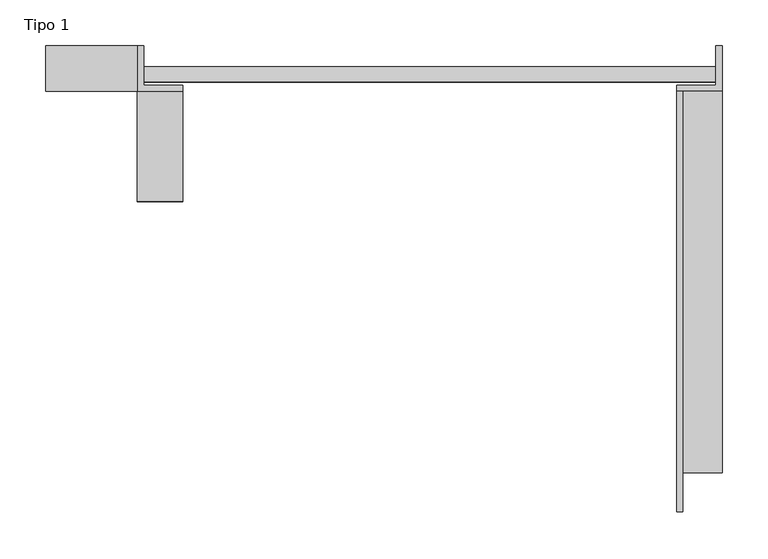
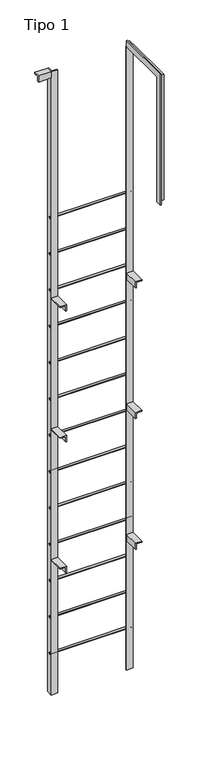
"""IFC4 building model written with IfcOpenShell, lengths in millimetres: proxy geometry, ARQ-ESC-EX-Ace-H3 : Tipo 1."""

import ifcopenshell
import ifcopenshell.guid

model = None  # the IFC model being written
_history = None  # IfcOwnerHistory: only IFC2X3 demands one
_inside = {}  # id of a spatial element -> (the spatial element, [elements in it])
_under = {}  # id of a project, library or spatial element -> (it, [spatial elements below it])
_declared = {}  # id of a project -> (the project, [libraries it declares])
_typed = {}  # id of a type object -> (the type object, [elements of that type])
_made_of = {}  # id of a material, layer set ... -> (it, [elements and type objects made of it])


def new_model(schema):
    """Start an empty IFC model of exactly this schema.

    Asked for "IFC4X3", IfcOpenShell would pick the latest addendum, in which some entities
    have other attributes; the version numbers below select the first issue.
    IFC2X3 requires an IfcOwnerHistory on every rooted entity: one is made here for all.
    """
    global model, _history
    if schema == "IFC4X3":
        model = ifcopenshell.file(schema_version=(4, 3, 0, 0))
    else:
        model = ifcopenshell.file(schema=schema)
    _inside.clear()
    _under.clear()
    _declared.clear()
    _typed.clear()
    _made_of.clear()
    _history = None
    if model.schema == "IFC2X3":
        org = make("IfcOrganization", Name="unknown")
        user = make(
            "IfcPersonAndOrganization",
            ThePerson=make("IfcPerson", FamilyName="unknown"),
            TheOrganization=org,
        )
        app = make(
            "IfcApplication",
            ApplicationDeveloper=org,
            Version="unknown",
            ApplicationFullName="unknown",
            ApplicationIdentifier="unknown",
        )
        _history = make(
            "IfcOwnerHistory",
            OwningUser=user,
            OwningApplication=app,
            ChangeAction="ADDED",
            CreationDate=0,
        )
    return model


def make(cls, **values):
    """One entity of the class cls with the attributes given. An attribute that is None is left unset."""
    return model.create_entity(
        cls, **{name: value for name, value in values.items() if value is not None}
    )


def rooted(cls, **values):
    """An entity with a GlobalId (a new one), such as an element, a storey or a relation."""
    return make(cls, GlobalId=ifcopenshell.guid.new(), OwnerHistory=_history, **values)


def si_unit(unit_type, name, prefix=None):
    """IfcSIUnit, for example si_unit("LENGTHUNIT", "METRE", prefix="MILLI")."""
    return make("IfcSIUnit", UnitType=unit_type, Prefix=prefix, Name=name)


def assignment(units):
    """IfcUnitAssignment: the units of a project."""
    return None if units is None else make("IfcUnitAssignment", Units=units)


def point(xyz):
    """IfcCartesianPoint."""
    return None if xyz is None else make("IfcCartesianPoint", Coordinates=xyz)


def direction(xyz):
    """IfcDirection."""
    return None if xyz is None else make("IfcDirection", DirectionRatios=xyz)


def frame(location, z_axis=None, x_axis=None):
    """IfcAxis2Placement3D, a coordinate frame: its origin and axes. An axis left out is left unset."""
    return make(
        "IfcAxis2Placement3D",
        Location=point(location),
        Axis=direction(z_axis),
        RefDirection=direction(x_axis),
    )


def frame_2d(location, x_axis=None):
    """IfcAxis2Placement2D, a coordinate frame in the plane: its origin and x axis."""
    return make(
        "IfcAxis2Placement2D", Location=point(location), RefDirection=direction(x_axis)
    )


def origin():
    """The frame at (0, 0, 0) with its axes left unset."""
    return frame((0.0, 0.0, 0.0))


def origin_with_axes():
    """The frame at (0, 0, 0) with the z axis (0, 0, 1) and the x axis (1, 0, 0) written out."""
    return frame((0.0, 0.0, 0.0), z_axis=(0.0, 0.0, 1.0), x_axis=(1.0, 0.0, 0.0))


def place(relative_to, where):
    """IfcLocalPlacement: puts the frame where relative to a parent placement (None: the world)."""
    return make(
        "IfcLocalPlacement", PlacementRelTo=relative_to, RelativePlacement=where
    )


def context(
    kind, dimensions, precision=None, world=None, true_north=None, identifier=None
):
    """IfcGeometricRepresentationContext, for example the 3D "Model" context."""
    return make(
        "IfcGeometricRepresentationContext",
        ContextIdentifier=identifier,
        ContextType=kind,
        CoordinateSpaceDimension=dimensions,
        Precision=precision,
        WorldCoordinateSystem=world,
        TrueNorth=true_north,
    )


def project(units=None, contexts=None):
    """IfcProject with its units and contexts."""
    return rooted(
        "IfcProject",
        Name="project",
        RepresentationContexts=contexts,
        UnitsInContext=assignment(units),
    )


def spatial(cls, under=None, at=None, **own):
    """A site, building, storey or space (cls), placed at a placement, below another one or the project."""
    s = rooted(cls, ObjectPlacement=at, **own)
    if under is not None:
        _under.setdefault(under.id(), (under, []))[1].append(s)
    return s


def polyline(points):
    """IfcPolyline through the points."""
    return make("IfcPolyline", Points=[point(p) for p in points])


def circle_curve(where, radius):
    """IfcCircle in the frame where."""
    return make("IfcCircle", Position=where, Radius=radius)


def trimmed(basis, trim1, trim2, sense, master):
    """IfcTrimmedCurve: the piece of a basis curve between two trims."""
    return make(
        "IfcTrimmedCurve",
        BasisCurve=basis,
        Trim1=trim1,
        Trim2=trim2,
        SenseAgreement=sense,
        MasterRepresentation=master,
    )


def segment(curve, same_sense, transition):
    """IfcCompositeCurveSegment."""
    return make(
        "IfcCompositeCurveSegment",
        Transition=transition,
        SameSense=same_sense,
        ParentCurve=curve,
    )


def composite_curve(segments, self_intersect=None):
    """IfcCompositeCurve: segments joined end to end."""
    return make("IfcCompositeCurve", Segments=segments, SelfIntersect=self_intersect)


def outline(outer, holes=None, kind="AREA"):
    """IfcArbitraryClosedProfileDef: a profile drawn as a closed curve; with holes, ...WithVoids."""
    if holes is None:
        return make("IfcArbitraryClosedProfileDef", ProfileType=kind, OuterCurve=outer)
    return make(
        "IfcArbitraryProfileDefWithVoids",
        ProfileType=kind,
        OuterCurve=outer,
        InnerCurves=holes,
    )


def extrude(swept, where, along, depth):
    """IfcExtrudedAreaSolid: the profile swept, set in the frame where, extruded along a direction by depth."""
    return make(
        "IfcExtrudedAreaSolid",
        SweptArea=swept,
        Position=where,
        ExtrudedDirection=direction(along),
        Depth=depth,
    )


def faces_of(points, faces, orient=None, outer=None):
    """IfcFace entities. A face is a list of loops; a loop is a list of indices into points, from 0.

    orient and outer hold one flag for each loop. By default every Orientation is true, the
    first loop of a face is its IfcFaceOuterBound and the others are IfcFaceBound.
    """
    made = []
    for i, loops in enumerate(faces):
        bounds = []
        for j, loop in enumerate(loops):
            is_outer = j == 0 if outer is None else outer[i][j]
            bounds.append(
                make(
                    "IfcFaceOuterBound" if is_outer else "IfcFaceBound",
                    Bound=make("IfcPolyLoop", Polygon=[points[k] for k in loop]),
                    Orientation=True if orient is None else orient[i][j],
                )
            )
        made.append(make("IfcFace", Bounds=bounds))
    return made


def faceted_brep(points, faces, orient=None, outer=None, voids=None):
    """IfcFacetedBrep: a solid bounded by flat faces; with voids (closed shells), ...WithVoids."""
    shared = [point(p) for p in points]
    hull = make("IfcClosedShell", CfsFaces=faces_of(shared, faces, orient, outer))
    if voids is None:
        return make("IfcFacetedBrep", Outer=hull)
    return make(
        "IfcFacetedBrepWithVoids",
        Outer=hull,
        Voids=[
            make(cls, CfsFaces=faces_of(shared, fs, o, b)) for cls, fs, o, b in voids
        ],
    )


def shape(context_of_items, identifier, shape_type, items):
    """IfcShapeRepresentation: the items that make up one representation, for example the "Body"."""
    return make(
        "IfcShapeRepresentation",
        ContextOfItems=context_of_items,
        RepresentationIdentifier=identifier,
        RepresentationType=shape_type,
        Items=items,
    )


def source(mapping_origin, context_of_items, identifier, shape_type, items):
    """IfcRepresentationMap: a shape defined once, which mapped items show again and again."""
    return make(
        "IfcRepresentationMap",
        MappingOrigin=mapping_origin,
        MappedRepresentation=shape(context_of_items, identifier, shape_type, items),
    )


def transform(
    local_origin,
    x_axis=None,
    y_axis=None,
    z_axis=None,
    scale=None,
    scale2=None,
    scale3=None,
    uniform=True,
):
    """IfcCartesianTransformationOperator3D, or its non-uniform kind. x_axis, y_axis, z_axis: its Axis1, 2, 3."""
    if uniform:
        return make(
            "IfcCartesianTransformationOperator3D",
            Axis1=direction(x_axis),
            Axis2=direction(y_axis),
            LocalOrigin=point(local_origin),
            Scale=scale,
            Axis3=direction(z_axis),
        )
    return make(
        "IfcCartesianTransformationOperator3DnonUniform",
        Axis1=direction(x_axis),
        Axis2=direction(y_axis),
        LocalOrigin=point(local_origin),
        Scale=scale,
        Axis3=direction(z_axis),
        Scale2=scale2,
        Scale3=scale3,
    )


def mapped(mapping_source, mapping_target):
    """IfcMappedItem: shows the shape of a source again, moved by a transform."""
    return make(
        "IfcMappedItem", MappingSource=mapping_source, MappingTarget=mapping_target
    )


def made_of(thing, what):
    """Note that an element or type object is made of a material, layer set ...; save() writes the relation."""
    if what is not None:
        _made_of.setdefault(what.id(), (what, []))[1].append(thing)
    return thing


def element(
    cls,
    number,
    at=None,
    inside=None,
    cuts=None,
    type_object=None,
    material=None,
    context=None,
    identifier="Body",
    shape_type=None,
    held_by="IfcProductDefinitionShape",
    body=None,
    shapes=None,
    **own,
):
    """One element of the class cls, such as IfcWall. Its Tag is "e" and its number.

    at: its placement. inside: the storey or other place that contains it. cuts: it is an
    opening in that element (IfcRelVoidsElement). A single representation is given by context,
    identifier, shape_type and body (its items); several are given by shapes. held_by: the class
    of the entity that holds the representations. save() writes the other relations.
    """
    e = rooted(cls, Tag="e%d" % number, ObjectPlacement=at, **own)
    if body is not None:
        shapes = [shape(context, identifier, shape_type, body)]
    if shapes is not None:
        e.Representation = make(held_by, Representations=shapes)
    if inside is not None:
        _inside.setdefault(inside.id(), (inside, []))[1].append(e)
    if cuts is not None:
        rooted(
            "IfcRelVoidsElement", RelatingBuildingElement=cuts, RelatedOpeningElement=e
        )
    if type_object is not None:
        _typed.setdefault(type_object.id(), (type_object, []))[1].append(e)
    return made_of(e, material)


def aggregate(whole, parts):
    """IfcRelAggregates: a whole, such as a stair, and the parts it consists of."""
    return rooted("IfcRelAggregates", RelatingObject=whole, RelatedObjects=parts)


def save(model, path):
    """Write the relations noted so far, then the file.

    IfcRelAggregates (storeys below a building ...), IfcRelContainedInSpatialStructure (elements
    in a storey), IfcRelDefinesByType, IfcRelAssociatesMaterial and IfcRelDeclares: one each for
    every whole, place, type object, material and project.
    """
    for whole, parts in _under.values():
        aggregate(whole, parts)
    for where, things in _inside.values():
        rooted(
            "IfcRelContainedInSpatialStructure",
            RelatedElements=things,
            RelatingStructure=where,
        )
    for kind, things in _typed.values():
        rooted("IfcRelDefinesByType", RelatedObjects=things, RelatingType=kind)
    for what, things in _made_of.values():
        rooted("IfcRelAssociatesMaterial", RelatedObjects=things, RelatingMaterial=what)
    for by, libraries in _declared.values():
        rooted("IfcRelDeclares", RelatingContext=by, RelatedDefinitions=libraries)
    model.write(path)


def tipo_1_852b0a03(model_context):
    return source(origin(), model_context, "Body", "SolidModel", [
        extrude(outline(polyline([(460.0, 5150.0), (510.0, 5150.0), (510.0, 5140.0), (470.0, 5140.0), (470.0, 5100.0), (460.0, 5100.0), (460.0, 5150.0)])), frame((-295.0, 0.0, 0.0), z_axis=(1.0, 0.0, 0.0), x_axis=(0.0, 1.0, 0.0)), (0.0, 0.0, 1.0), 100.0),
        extrude(outline(composite_curve([segment(trimmed(circle_curve(frame_2d((479.0311639, 3934.518203)), 8.0), [point((471.0311639, 3934.518203))], [point((487.0311639, 3934.518203))], False, "CARTESIAN"), True, "CONTINUOUS"), segment(trimmed(circle_curve(frame_2d((479.0311639, 3934.518203)), 8.0), [point((487.0311639, 3934.518203))], [point((471.0311639, 3934.518203))], False, "CARTESIAN"), True, "CONTINUOUS")], self_intersect=False)), frame((-195.0, 0.0, 0.0), z_axis=(1.0, 0.0, 0.0), x_axis=(0.0, 1.0, 0.0)), (0.0, 0.0, 1.0), 640.0),
        extrude(outline(composite_curve([segment(trimmed(circle_curve(frame_2d((479.0311639, 3634.518203)), 8.0), [point((471.0311639, 3634.518203))], [point((487.0311639, 3634.518203))], False, "CARTESIAN"), True, "CONTINUOUS"), segment(trimmed(circle_curve(frame_2d((479.0311639, 3634.518203)), 8.0), [point((487.0311639, 3634.518203))], [point((471.0311639, 3634.518203))], False, "CARTESIAN"), True, "CONTINUOUS")], self_intersect=False)), frame((-195.0, 0.0, 0.0), z_axis=(1.0, 0.0, 0.0), x_axis=(0.0, 1.0, 0.0)), (0.0, 0.0, 1.0), 640.0),
        extrude(outline(composite_curve([segment(trimmed(circle_curve(frame_2d((479.0311639, 3334.518203)), 8.0), [point((471.0311639, 3334.518203))], [point((487.0311639, 3334.518203))], False, "CARTESIAN"), True, "CONTINUOUS"), segment(trimmed(circle_curve(frame_2d((479.0311639, 3334.518203)), 8.0), [point((487.0311639, 3334.518203))], [point((471.0311639, 3334.518203))], False, "CARTESIAN"), True, "CONTINUOUS")], self_intersect=False)), frame((-195.0, 0.0, 0.0), z_axis=(1.0, 0.0, 0.0), x_axis=(0.0, 1.0, 0.0)), (0.0, 0.0, 1.0), 640.0),
        extrude(outline(composite_curve([segment(trimmed(circle_curve(frame_2d((479.0311639, 3034.518203)), 8.0), [point((471.0311639, 3034.518203))], [point((487.0311639, 3034.518203))], False, "CARTESIAN"), True, "CONTINUOUS"), segment(trimmed(circle_curve(frame_2d((479.0311639, 3034.518203)), 8.0), [point((487.0311639, 3034.518203))], [point((471.0311639, 3034.518203))], False, "CARTESIAN"), True, "CONTINUOUS")], self_intersect=False)), frame((-195.0, 0.0, 0.0), z_axis=(1.0, 0.0, 0.0), x_axis=(0.0, 1.0, 0.0)), (0.0, 0.0, 1.0), 640.0),
        extrude(outline(composite_curve([segment(trimmed(circle_curve(frame_2d((479.0311639, 2734.518203)), 8.0), [point((471.0311639, 2734.518203))], [point((487.0311639, 2734.518203))], False, "CARTESIAN"), True, "CONTINUOUS"), segment(trimmed(circle_curve(frame_2d((479.0311639, 2734.518203)), 8.0), [point((487.0311639, 2734.518203))], [point((471.0311639, 2734.518203))], False, "CARTESIAN"), True, "CONTINUOUS")], self_intersect=False)), frame((-195.0, 0.0, 0.0), z_axis=(1.0, 0.0, 0.0), x_axis=(0.0, 1.0, 0.0)), (0.0, 0.0, 1.0), 640.0),
        extrude(outline(composite_curve([segment(trimmed(circle_curve(frame_2d((479.0311639, 2434.518203)), 8.0), [point((471.0311639, 2434.518203))], [point((487.0311639, 2434.518203))], False, "CARTESIAN"), True, "CONTINUOUS"), segment(trimmed(circle_curve(frame_2d((479.0311639, 2434.518203)), 8.0), [point((487.0311639, 2434.518203))], [point((471.0311639, 2434.518203))], False, "CARTESIAN"), True, "CONTINUOUS")], self_intersect=False)), frame((-195.0, 0.0, 0.0), z_axis=(1.0, 0.0, 0.0), x_axis=(0.0, 1.0, 0.0)), (0.0, 0.0, 1.0), 640.0),
        extrude(outline(composite_curve([segment(trimmed(circle_curve(frame_2d((479.0311639, 2134.518203)), 8.0), [point((471.0311639, 2134.518203))], [point((487.0311639, 2134.518203))], False, "CARTESIAN"), True, "CONTINUOUS"), segment(trimmed(circle_curve(frame_2d((479.0311639, 2134.518203)), 8.0), [point((487.0311639, 2134.518203))], [point((471.0311639, 2134.518203))], False, "CARTESIAN"), True, "CONTINUOUS")], self_intersect=False)), frame((-195.0, 0.0, 0.0), z_axis=(1.0, 0.0, 0.0), x_axis=(0.0, 1.0, 0.0)), (0.0, 0.0, 1.0), 640.0),
        extrude(outline(composite_curve([segment(trimmed(circle_curve(frame_2d((479.0311639, 1834.518203)), 8.0), [point((471.0311639, 1834.518203))], [point((487.0311639, 1834.518203))], False, "CARTESIAN"), True, "CONTINUOUS"), segment(trimmed(circle_curve(frame_2d((479.0311639, 1834.518203)), 8.0), [point((487.0311639, 1834.518203))], [point((471.0311639, 1834.518203))], False, "CARTESIAN"), True, "CONTINUOUS")], self_intersect=False)), frame((-195.0, 0.0, 0.0), z_axis=(1.0, 0.0, 0.0), x_axis=(0.0, 1.0, 0.0)), (0.0, 0.0, 1.0), 640.0),
        extrude(outline(composite_curve([segment(trimmed(circle_curve(frame_2d((479.0311639, 1534.518203)), 8.0), [point((471.0311639, 1534.518203))], [point((487.0311639, 1534.518203))], False, "CARTESIAN"), True, "CONTINUOUS"), segment(trimmed(circle_curve(frame_2d((479.0311639, 1534.518203)), 8.0), [point((487.0311639, 1534.518203))], [point((471.0311639, 1534.518203))], False, "CARTESIAN"), True, "CONTINUOUS")], self_intersect=False)), frame((-195.0, 0.0, 0.0), z_axis=(1.0, 0.0, 0.0), x_axis=(0.0, 1.0, 0.0)), (0.0, 0.0, 1.0), 640.0),
        extrude(outline(composite_curve([segment(trimmed(circle_curve(frame_2d((479.0311639, 1234.518203)), 8.0), [point((471.0311639, 1234.518203))], [point((487.0311639, 1234.518203))], False, "CARTESIAN"), True, "CONTINUOUS"), segment(trimmed(circle_curve(frame_2d((479.0311639, 1234.518203)), 8.0), [point((487.0311639, 1234.518203))], [point((471.0311639, 1234.518203))], False, "CARTESIAN"), True, "CONTINUOUS")], self_intersect=False)), frame((-195.0, 0.0, 0.0), z_axis=(1.0, 0.0, 0.0), x_axis=(0.0, 1.0, 0.0)), (0.0, 0.0, 1.0), 640.0),
        extrude(outline(composite_curve([segment(trimmed(circle_curve(frame_2d((479.0311639, 934.518203)), 8.0), [point((471.0311639, 934.518203))], [point((487.0311639, 934.518203))], False, "CARTESIAN"), True, "CONTINUOUS"), segment(trimmed(circle_curve(frame_2d((479.0311639, 934.518203)), 8.0), [point((487.0311639, 934.518203))], [point((471.0311639, 934.518203))], False, "CARTESIAN"), True, "CONTINUOUS")], self_intersect=False)), frame((-195.0, 0.0, 0.0), z_axis=(1.0, 0.0, 0.0), x_axis=(0.0, 1.0, 0.0)), (0.0, 0.0, 1.0), 640.0),
        extrude(outline(composite_curve([segment(trimmed(circle_curve(frame_2d((479.0311639, 634.518203)), 8.0), [point((471.0311639, 634.518203))], [point((487.0311639, 634.518203))], False, "CARTESIAN"), True, "CONTINUOUS"), segment(trimmed(circle_curve(frame_2d((479.0311639, 634.518203)), 8.0), [point((487.0311639, 634.518203))], [point((471.0311639, 634.518203))], False, "CARTESIAN"), True, "CONTINUOUS")], self_intersect=False)), frame((-195.0, 0.0, 0.0), z_axis=(1.0, 0.0, 0.0), x_axis=(0.0, 1.0, 0.0)), (0.0, 0.0, 1.0), 640.0),
        extrude(outline(composite_curve([segment(trimmed(circle_curve(frame_2d((479.0311639, 334.518203)), 8.0), [point((471.0311639, 334.518203))], [point((487.0311639, 334.518203))], False, "CARTESIAN"), True, "CONTINUOUS"), segment(trimmed(circle_curve(frame_2d((479.0311639, 334.518203)), 8.0), [point((487.0311639, 334.518203))], [point((471.0311639, 334.518203))], False, "CARTESIAN"), True, "CONTINUOUS")], self_intersect=False)), frame((-195.0, 0.0, 0.0), z_axis=(1.0, 0.0, 0.0), x_axis=(0.0, 1.0, 0.0)), (0.0, 0.0, 1.0), 640.0),
        extrude(outline(polyline([(1120.0, 395.0), (1070.0, 395.0), (1070.0, 402.0), (1113.0, 402.0), (1113.0, 445.0), (1120.0, 445.0), (1120.0, 395.0)])), frame((0.0, 340.0, 0.0), z_axis=(0.0, 1.0, 0.0), x_axis=(0.0, 0.0, 1.0)), (0.0, 0.0, 1.0), 120.0),
        extrude(outline(polyline([(2200.0, 395.0), (2150.0, 395.0), (2150.0, 402.0), (2193.0, 402.0), (2193.0, 445.0), (2200.0, 445.0), (2200.0, 395.0)])), frame((0.0, 340.0, 0.0), z_axis=(0.0, 1.0, 0.0), x_axis=(0.0, 0.0, 1.0)), (0.0, 0.0, 1.0), 120.0),
        extrude(outline(polyline([(3280.0, 395.0), (3230.0, 395.0), (3230.0, 402.0), (3273.0, 402.0), (3273.0, 445.0), (3280.0, 445.0), (3280.0, 395.0)])), frame((0.0, 340.0, 0.0), z_axis=(0.0, 1.0, 0.0), x_axis=(0.0, 0.0, 1.0)), (0.0, 0.0, 1.0), 120.0),
        extrude(outline(polyline([(1120.0, -145.0), (1120.0, -195.0), (1113.0, -195.0), (1113.0, -152.0), (1070.0, -152.0), (1070.0, -145.0), (1120.0, -145.0)])), frame((0.0, 340.0, 0.0), z_axis=(0.0, 1.0, 0.0), x_axis=(0.0, 0.0, 1.0)), (0.0, 0.0, 1.0), 120.0),
        extrude(outline(polyline([(2200.0, -145.0), (2200.0, -195.0), (2193.0, -195.0), (2193.0, -152.0), (2150.0, -152.0), (2150.0, -145.0), (2200.0, -145.0)])), frame((0.0, 340.0, 0.0), z_axis=(0.0, 1.0, 0.0), x_axis=(0.0, 0.0, 1.0)), (0.0, 0.0, 1.0), 120.0),
        extrude(outline(polyline([(3280.0, -145.0), (3280.0, -195.0), (3273.0, -195.0), (3273.0, -152.0), (3230.0, -152.0), (3230.0, -145.0), (3280.0, -145.0)])), frame((0.0, 340.0, 0.0), z_axis=(0.0, 1.0, 0.0), x_axis=(0.0, 0.0, 1.0)), (0.0, 0.0, 1.0), 120.0),
        faceted_brep([(395.0, 460.0, 5150.0), (395.0, 460.0, 5200.0), (402.0, 460.0, 5200.0), (402.0, 460.0, 5157.0), (445.0, 460.0, 5157.0), (445.0, 460.0, 5150.0), (395.0, 50.0, 5150.0), (395.0, 50.0, 4120.0), (395.0, 0.0, 4120.0), (395.0, 0.0, 5200.0), (402.0, 0.0, 5200.0), (402.0, 0.0, 4120.0), (402.0, 43.0, 4120.0), (402.0, 43.0, 5157.0), (445.0, 43.0, 5157.0), (445.0, 43.0, 4120.0), (445.0, 50.0, 4120.0), (445.0, 50.0, 5150.0)], [[[0, 1, 2, 3, 4, 5]], [[1, 0, 6, 7, 8, 9]], [[2, 1, 9, 10]], [[3, 2, 10, 11, 12, 13]], [[4, 3, 13, 14]], [[5, 4, 14, 15, 16, 17]], [[0, 5, 17, 6]], [[7, 16, 15, 12, 11, 8]], [[10, 9, 8, 11]], [[14, 13, 12, 15]], [[6, 17, 16, 7]]]),
        extrude(outline(polyline([(-195.0, 460.0), (-195.0, 510.0), (-188.0, 510.0), (-188.0, 467.0), (-145.0, 467.0), (-145.0, 460.0), (-195.0, 460.0)])), origin_with_axes(), (0.0, 0.0, 1.0), 5150.0),
        extrude(outline(polyline([(445.0, 460.0), (395.0, 460.0), (395.0, 467.0), (438.0, 467.0), (438.0, 510.0), (445.0, 510.0), (445.0, 460.0)])), origin_with_axes(), (0.0, 0.0, 1.0), 5150.0),
    ])


if __name__ == "__main__":
    model = new_model("IFC4")
    model_context = context("Model", 3, world=origin())
    ifc_project = project(units=[si_unit("LENGTHUNIT", "METRE", prefix="MILLI")], contexts=[model_context])
    site = spatial("IfcSite", under=ifc_project)
    building = spatial("IfcBuilding", under=site)
    placement = place(None, origin())
    tipo_1_shape = tipo_1_852b0a03(model_context)
    element("IfcBuildingElementProxy", 1, Name="ARQ-ESC-EX-Ace-H3 : Tipo 1", ObjectType="ARQ-ESC-EX-Ace-H3 : Tipo 1", at=placement, inside=building, context=model_context, shape_type="MappedRepresentation", body=[
        mapped(tipo_1_shape, transform((0.0, 0.0, 0.0), x_axis=(1.0, 0.0, 0.0), y_axis=(0.0, 1.0, 0.0), z_axis=(0.0, 0.0, 1.0))),
    ])
    save(model, "model.ifc")
